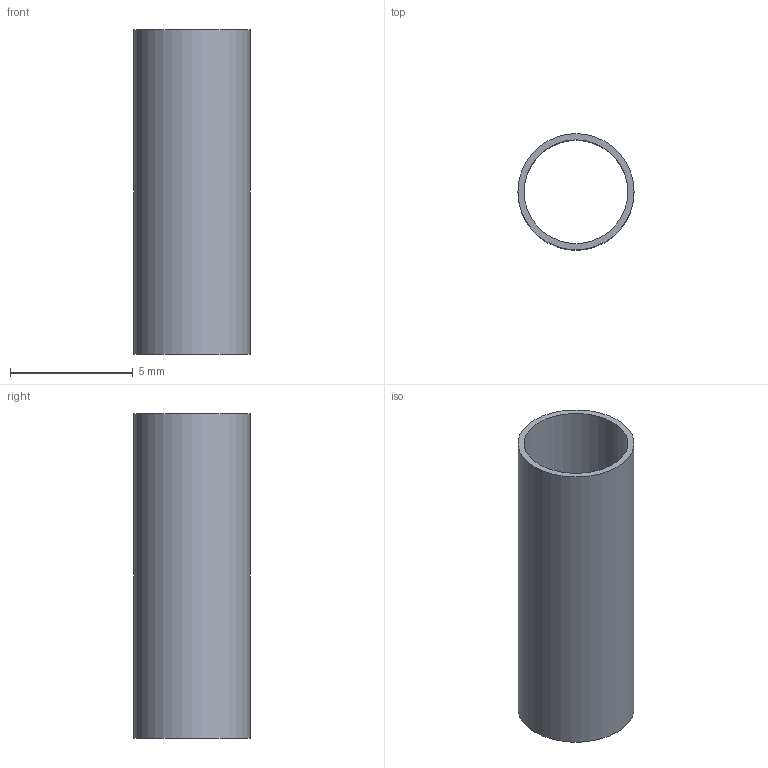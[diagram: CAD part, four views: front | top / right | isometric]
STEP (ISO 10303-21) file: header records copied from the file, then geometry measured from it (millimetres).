
FILE_DESCRIPTION(/* description */ (''),/* implementation_level */ '2;1');
FILE_NAME(/* name */ 'C:\Users\krisham\Desktop\New folder (2)\glass line.stp',/* time_stamp */ '2014-05-31T22:58:33-07:00',/* author */ ('krisham'),/* organization */ (''),/* preprocessor_version */ 'ST-DEVELOPER v15.2',/* originating_system */ 'Autodesk Inventor 2014',/* authorisation */ '');
FILE_SCHEMA (('AUTOMOTIVE_DESIGN { 1 0 10303 214 3 1 1 }'));
Length unit declared in the file: inch
Products named in the file (1): glass line
Bounding box: 4.73 x 4.73 x 13.21 mm (x, y, z)
Volume: 47.2 mm3; surface area: 378.4 mm2
Topology: 1 solids, 1 shells, 4 faces, 6 edges, 4 vertices
Faces by surface type: plane 2, cylinder 2
Full cylindrical faces by diameter (mm): 4.218 x1, 4.726 x1
Entity records: 121 total; most frequent: DIRECTION 18, CARTESIAN_POINT 13, AXIS2_PLACEMENT_3D 9, EDGE_LOOP 8, ORIENTED_EDGE 8, FACE_BOUND 6, STYLED_ITEM 4, CIRCLE 4
